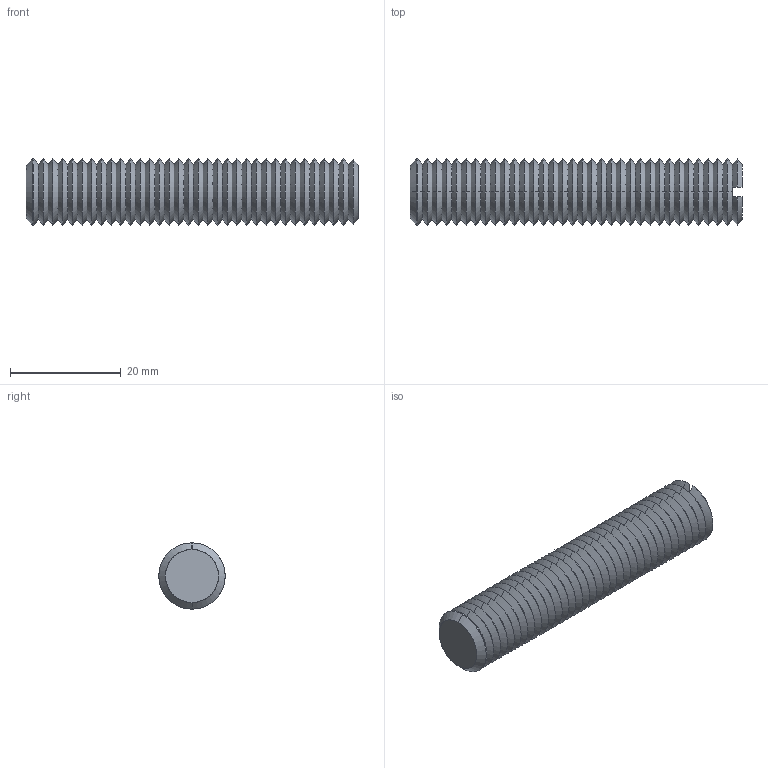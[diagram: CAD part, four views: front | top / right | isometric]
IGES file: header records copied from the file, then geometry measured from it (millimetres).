
Start section: SolidWorks IGES file using analytic representation for surfaces
Global section: file name: C:\Documents and Settings\IANO\Desktop\Temp File\Process pending\EXISTING\34300_v2\34300_v2_20170622_IGES\34300.W0126.igs; native system: SolidWorks 2009; preprocessor: SolidWorks 2009; author: IANO; date: 170622.094245; units: millimetre
Bounding box: 60 x 12 x 12 mm (x, y, z)
Surface area: 3454.2 mm2 (no closed solid volume)
Topology: 0 solids, 0 shells, 144 faces, 640 edges, 640 vertices
Faces by surface type: revolution 138, bspline 6
